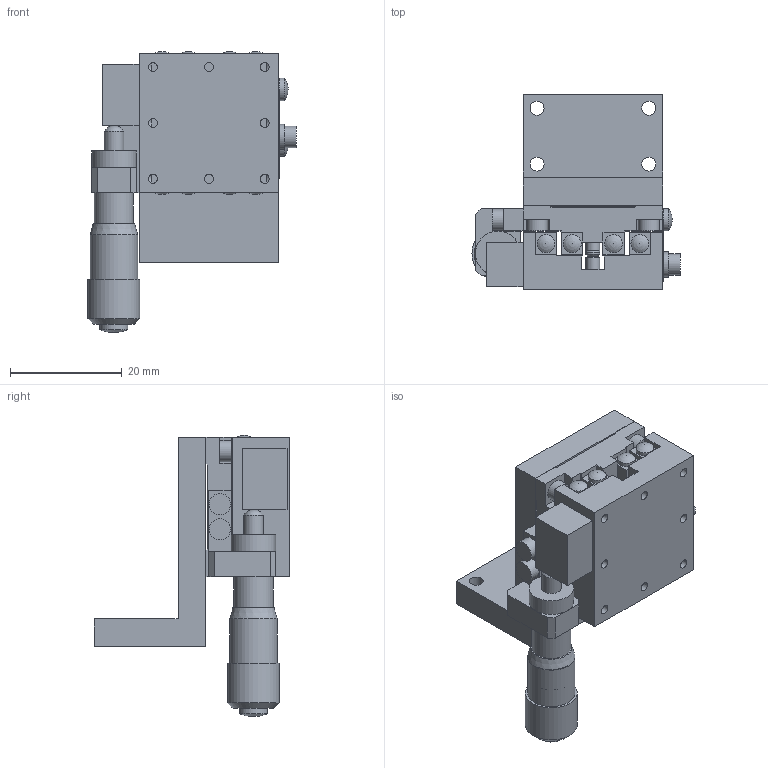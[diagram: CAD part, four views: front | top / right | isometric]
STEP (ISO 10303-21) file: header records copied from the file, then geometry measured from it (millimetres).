
FILE_DESCRIPTION( ( 'STEP AP203' ), '1' );
FILE_NAME( 'C:/3D-Trans/3D_B31-25CN+090210.step', '2009-02-10T07:05:12', ( ' ' ), ( ' ' ), 'XStep 1.0', ' ', ' ' );
FILE_SCHEMA( ( 'CONFIG_CONTROL_DESIGN' ) );
Length unit declared in the file: millimetre
Products named in the file (4): 1; 2; 3; 4
Bounding box: 37.25 x 35 x 50.3 mm (x, y, z)
Volume: 16985.3 mm3; surface area: 11344.1 mm2
Topology: 4 solids, 5 shells, 238 faces, 609 edges, 402 vertices
Faces by surface type: plane 143, cylinder 68, cone 15, sphere 12
Full cylindrical faces by diameter (mm): 1.6 x14, 2 x1, 2.5 x12, 3.2 x8, 3.5 x2, 3.8 x7, 4 x2, 4.5 x2, 5 x3, 5.5 x1, 6 x1, 7 x1, 8 x1, 8.1 x1, 8.5 x1, 9.3 x1
Entity records: 6611 total; most frequent: CARTESIAN_POINT 1138, DIRECTION 1101, ORIENTED_EDGE 956, EDGE_CURVE 478, AXIS2_PLACEMENT_3D 387, EDGE_LOOP 366, VERTEX_POINT 352, LINE 327
